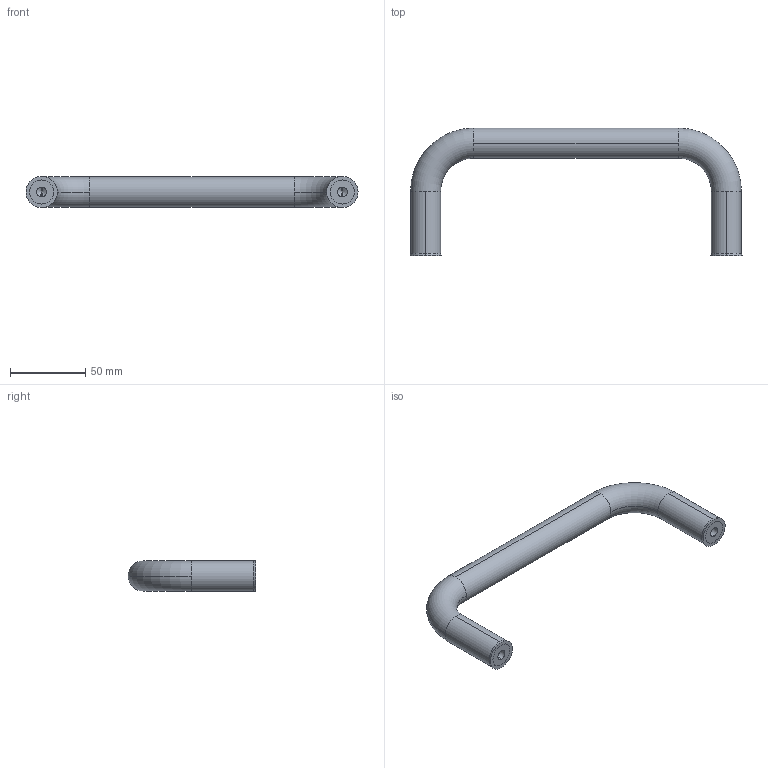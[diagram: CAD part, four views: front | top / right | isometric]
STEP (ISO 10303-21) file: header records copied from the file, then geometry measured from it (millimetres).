
FILE_DESCRIPTION (( 'STEP AP214' ), '1' );
FILE_NAME ('429-A4-20-200-PL-F.step', '2025-04-22T11:32:42', ( '' ), ( '' ), 'SwSTEP 2.0', 'SolidWorks 2022', '' );
FILE_SCHEMA (( 'AUTOMOTIVE_DESIGN' ));
Length unit declared in the file: millimetre
Products named in the file (1): 429-A4-20-200-PL-F
Bounding box: 220.8 x 85 x 20.8 mm (x, y, z)
Volume: 100295.2 mm3; surface area: 21590.6 mm2
Topology: 1 solids, 1 shells, 36 faces, 82 edges, 50 vertices
Faces by surface type: cylinder 18, cone 8, plane 6, torus 4
Entity records: 1216 total; most frequent: DIRECTION 204, CARTESIAN_POINT 165, ORIENTED_EDGE 156, AXIS2_PLACEMENT_3D 89, EDGE_CURVE 78, CIRCLE 52, VERTEX_POINT 50, EDGE_LOOP 42
